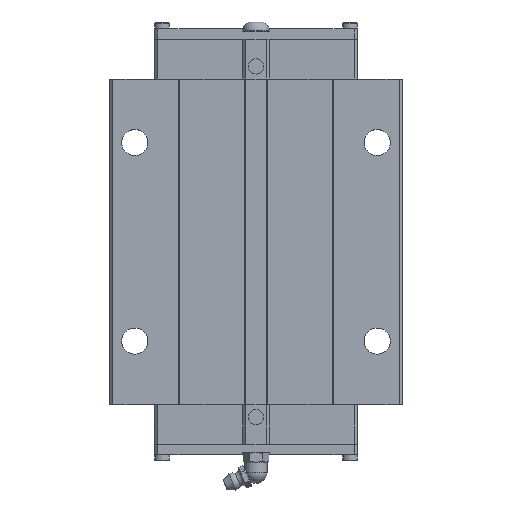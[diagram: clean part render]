
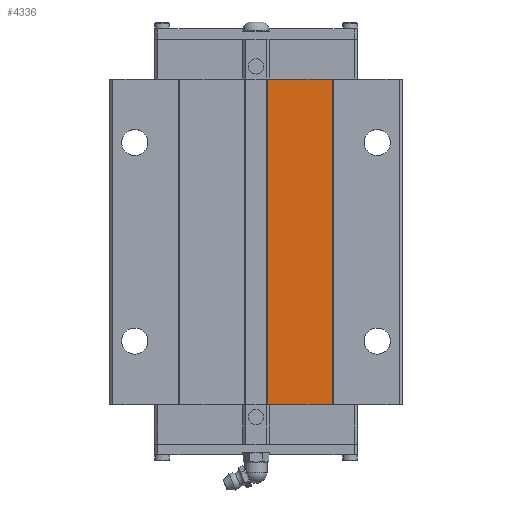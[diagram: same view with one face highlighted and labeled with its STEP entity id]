
A CAD part, top view. The second image highlights one B-rep face of the part: STEP entity #4336.
In plain terms, the highlighted planar face has unit normal (0, 0, 1).
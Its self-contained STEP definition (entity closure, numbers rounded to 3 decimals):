
#3310=VERTEX_POINT('',#6840);
#3390=EDGE_CURVE('',#4616,#3310,#6928,.T.);
#3892=EDGE_CURVE('',#3310,#4618,#7472,.T.);
#3960=VERTEX_POINT('',#7547);
#4222=EDGE_CURVE('',#4616,#3960,#7838,.T.);
#4336=ADVANCED_FACE('',(#7967),#7968,.F.);
#4616=VERTEX_POINT('',#8270);
#4618=VERTEX_POINT('',#8272);
#4664=EDGE_CURVE('',#4618,#3960,#8322,.T.);
#6840=CARTESIAN_POINT('',(36.5,179.8,69.5));
#6928=LINE('',#11643,#11644);
#7472=LINE('',#12441,#12442);
#7547=CARTESIAN_POINT('',(5.5,24.0,69.5));
#7838=LINE('',#12968,#12969);
#7967=FACE_OUTER_BOUND('',#13145,.T.);
#7968=PLANE('',#13146);
#8270=CARTESIAN_POINT('',(5.5,179.8,69.5));
#8272=CARTESIAN_POINT('',(36.5,24.0,69.5));
#8322=LINE('',#13681,#13682);
#11643=CARTESIAN_POINT('',(18.25,179.8,69.5));
#11644=VECTOR('',#16381,1.0);
#12441=CARTESIAN_POINT('',(36.5,257.7,69.5));
#12442=VECTOR('',#16925,1.0);
#12968=CARTESIAN_POINT('',(5.5,218.75,69.5));
#12969=VECTOR('',#17333,1.0);
#13145=EDGE_LOOP('',(#17552,#17553,#17554,#17555));
#13146=AXIS2_PLACEMENT_3D('',#17556,#17557,#17558);
#13681=CARTESIAN_POINT('',(18.25,24.0,69.5));
#13682=VECTOR('',#17912,1.0);
#16381=DIRECTION('',(1.0,0.0,0.0));
#16925=DIRECTION('',(0.0,-1.0,0.0));
#17333=DIRECTION('',(0.0,-1.0,0.0));
#17552=ORIENTED_EDGE('',*,*,#4222,.T.);
#17553=ORIENTED_EDGE('',*,*,#4664,.F.);
#17554=ORIENTED_EDGE('',*,*,#3892,.F.);
#17555=ORIENTED_EDGE('',*,*,#3390,.F.);
#17556=CARTESIAN_POINT('',(36.5,257.7,69.5));
#17557=DIRECTION('',(0.0,0.0,-1.0));
#17558=DIRECTION('',(1.0,0.0,0.0));
#17912=DIRECTION('',(-1.0,-0.0,-0.0));
